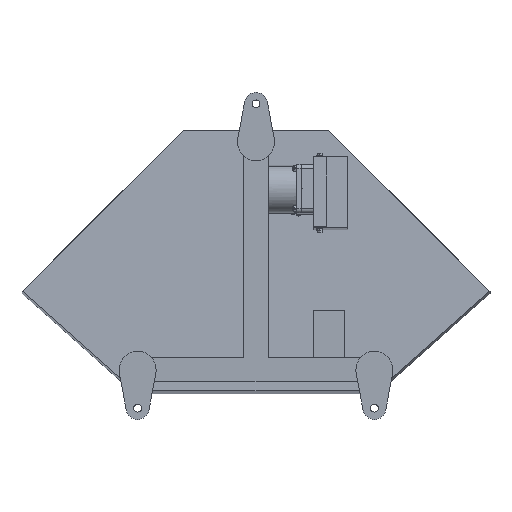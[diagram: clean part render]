
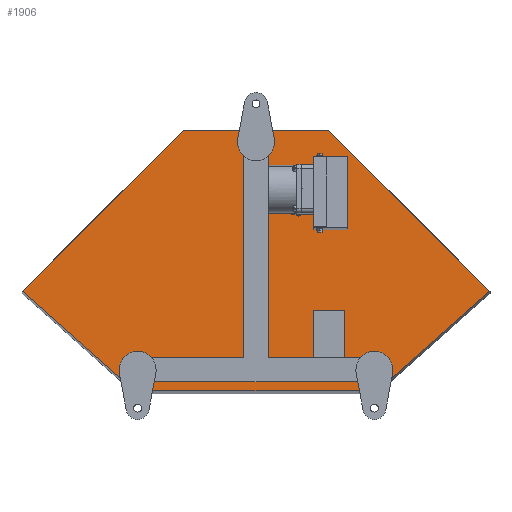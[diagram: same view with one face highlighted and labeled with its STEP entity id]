
A CAD part, front view. The second image highlights one B-rep face of the part: STEP entity #1906.
In plain terms, the highlighted planar face has unit normal (0, -0.999, 0.034).
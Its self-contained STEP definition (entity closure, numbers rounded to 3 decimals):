
#1906=ADVANCED_FACE('',(#5865),#5864,.T.);
#5864=PLANE('',#15127);
#5865=FACE_OUTER_BOUND('',#15128,.T.);
#15124=CARTESIAN_POINT('',(-395.373,-89.026,-110.006));
#15125=DIRECTION('',(0.,-0.999,0.034));
#15126=DIRECTION('',(0.,-0.034,-0.999));
#15127=AXIS2_PLACEMENT_3D('',#15124,#15125,#15126);
#15128=EDGE_LOOP('',(#21587,#21588,#21589,#21590,#21591,#21592));
#21587=ORIENTED_EDGE('',*,*,#25721,.T.);
#21588=ORIENTED_EDGE('',*,*,#25706,.T.);
#21589=ORIENTED_EDGE('',*,*,#25720,.T.);
#21590=ORIENTED_EDGE('',*,*,#25718,.T.);
#21591=ORIENTED_EDGE('',*,*,#25715,.T.);
#21592=ORIENTED_EDGE('',*,*,#25709,.T.);
#25706=EDGE_CURVE('',#32777,#32770,#32778,.T.);
#25709=EDGE_CURVE('',#32797,#32790,#32798,.T.);
#25715=EDGE_CURVE('',#32823,#32797,#32837,.T.);
#25718=EDGE_CURVE('',#32843,#32823,#32857,.T.);
#25720=EDGE_CURVE('',#32770,#32843,#32869,.T.);
#25721=EDGE_CURVE('',#32790,#32777,#32875,.T.);
#32770=VERTEX_POINT('',#49454);
#32777=VERTEX_POINT('',#49458);
#32778=LINE('',#49459,#49460);
#32790=VERTEX_POINT('',#49465);
#32797=VERTEX_POINT('',#49469);
#32798=LINE('',#49470,#49471);
#32823=VERTEX_POINT('',#49483);
#32837=LINE('',#49491,#49492);
#32843=VERTEX_POINT('',#49494);
#32857=LINE('',#49502,#49503);
#32869=LINE('',#49508,#49509);
#32875=LINE('',#49511,#49512);
#49454=CARTESIAN_POINT('',(-385.373,-98.287,-385.223));
#49458=CARTESIAN_POINT('',(-120.,-89.362,-120.));
#49459=CARTESIAN_POINT('',(-120.,-89.362,-120.));
#49460=VECTOR('',#49461,375.294);
#49461=DIRECTION('',(-0.707,-0.024,-0.707));
#49465=CARTESIAN_POINT('',(120.,-89.362,-120.));
#49469=CARTESIAN_POINT('',(385.373,-98.287,-385.223));
#49470=CARTESIAN_POINT('',(385.373,-98.287,-385.223));
#49471=VECTOR('',#49472,375.294);
#49472=DIRECTION('',(-0.707,0.024,0.707));
#49483=CARTESIAN_POINT('',(200.,-103.823,-549.757));
#49491=CARTESIAN_POINT('',(200.,-103.823,-549.757));
#49492=VECTOR('',#49493,247.922);
#49493=DIRECTION('',(0.748,0.022,0.664));
#49494=CARTESIAN_POINT('',(-200.,-103.823,-549.757));
#49502=CARTESIAN_POINT('',(-200.,-103.823,-549.757));
#49503=VECTOR('',#49504,400.);
#49504=DIRECTION('',(1.,0.,0.));
#49508=CARTESIAN_POINT('',(-385.373,-98.287,-385.223));
#49509=VECTOR('',#49510,247.922);
#49510=DIRECTION('',(0.748,-0.022,-0.664));
#49511=CARTESIAN_POINT('',(120.,-89.362,-120.));
#49512=VECTOR('',#49513,240.);
#49513=DIRECTION('',(-1.,0.,0.));
